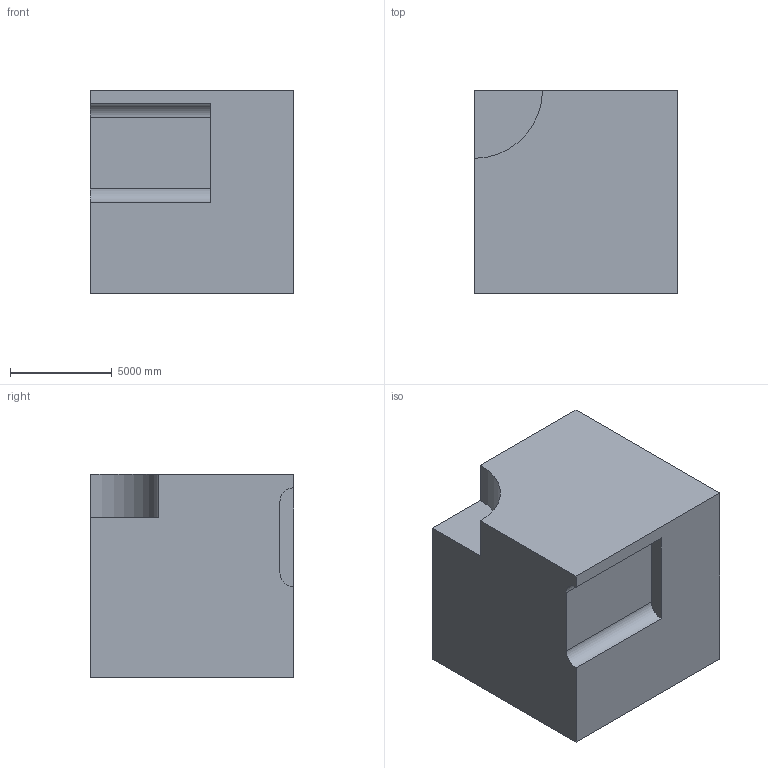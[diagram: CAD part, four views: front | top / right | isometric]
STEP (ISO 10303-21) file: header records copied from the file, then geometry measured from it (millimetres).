
FILE_DESCRIPTION (( 'STEP AP203' ), '1' );
FILE_NAME ('1146.STEP', '2022-08-18T12:56:34', ( 'user' ), ( '' ), 'SwSTEP 2.0', 'SolidWorks 2021', '' );
FILE_SCHEMA (( 'CONFIG_CONTROL_DESIGN' ));
Length unit declared in the file: centimetre
Products named in the file (1): 1146
Bounding box: 10000 x 10000 x 10000 mm (x, y, z)
Volume: 963128580836.3 mm3; surface area: 601500090.3 mm2
Topology: 1 solids, 1 shells, 12 faces, 30 edges, 20 vertices
Faces by surface type: plane 9, cylinder 3
Entity records: 437 total; most frequent: CARTESIAN_POINT 63, DIRECTION 62, ORIENTED_EDGE 60, EDGE_CURVE 30, LINE 24, VECTOR 24, VERTEX_POINT 20, AXIS2_PLACEMENT_3D 19
